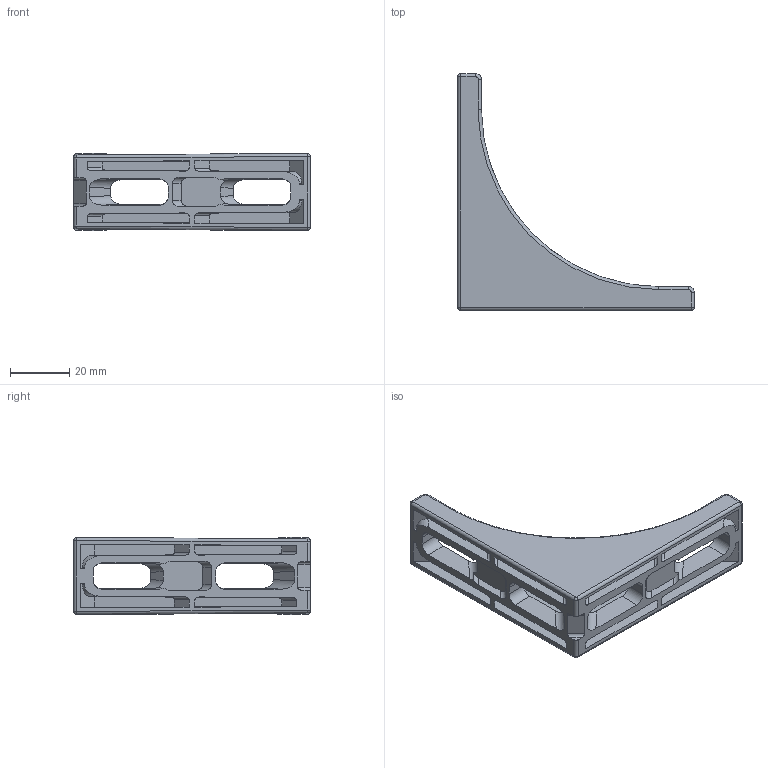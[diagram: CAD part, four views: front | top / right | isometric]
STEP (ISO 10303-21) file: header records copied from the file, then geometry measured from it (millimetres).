
FILE_DESCRIPTION (( 'STEP AP203' ), '1' );
FILE_NAME ('115.305.060.STEP', '2024-10-04T08:52:09', ( '' ), ( '' ), 'SwSTEP 2.0', 'SolidWorks 2024', '' );
FILE_SCHEMA (( 'CONFIG_CONTROL_DESIGN' ));
Length unit declared in the file: millimetre
Products named in the file (1): 115.305.060
Bounding box: 80 x 80 x 26.05 mm (x, y, z)
Volume: 24982 mm3; surface area: 16362.1 mm2
Topology: 1 solids, 5 shells, 230 faces, 576 edges, 358 vertices
Faces by surface type: plane 109, cylinder 79, bspline 34, sphere 8
Entity records: 7591 total; most frequent: CARTESIAN_POINT 2573, ORIENTED_EDGE 1140, DIRECTION 882, EDGE_CURVE 570, VERTEX_POINT 358, LINE 340, VECTOR 340, AXIS2_PLACEMENT_3D 271
